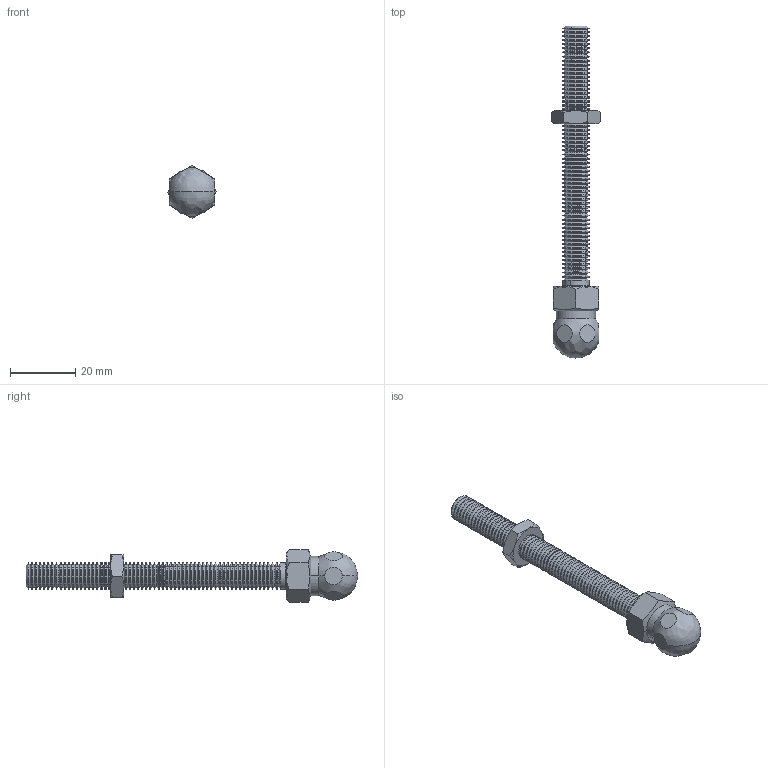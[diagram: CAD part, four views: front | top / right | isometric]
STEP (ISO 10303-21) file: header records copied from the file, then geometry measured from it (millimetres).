
FILE_DESCRIPTION (( 'STEP AP203' ), '1' );
FILE_NAME ('501370_Gewindestange mit Kugel M8x80.step', '2023-07-14T06:41:54', ( '' ), ( '' ), 'SwSTEP 2.0', 'SolidWorks 2021', '' );
FILE_SCHEMA (( 'CONFIG_CONTROL_DESIGN' ));
Length unit declared in the file: millimetre
Products named in the file (1): 501370_Gewindestange mit Kugel M8x80
Bounding box: 15.01 x 102 x 16.17 mm (x, y, z)
Volume: 8532.9 mm3; surface area: 6113.1 mm2
Topology: 5 solids, 5 shells, 603 faces, 1547 edges, 959 vertices
Faces by surface type: cone 372, cylinder 182, plane 41, bspline 4, torus 2, sphere 2
Entity records: 19111 total; most frequent: CARTESIAN_POINT 3762, DIRECTION 3604, ORIENTED_EDGE 3090, EDGE_CURVE 1545, AXIS2_PLACEMENT_3D 1513, VERTEX_POINT 959, CIRCLE 913, EDGE_LOOP 612
